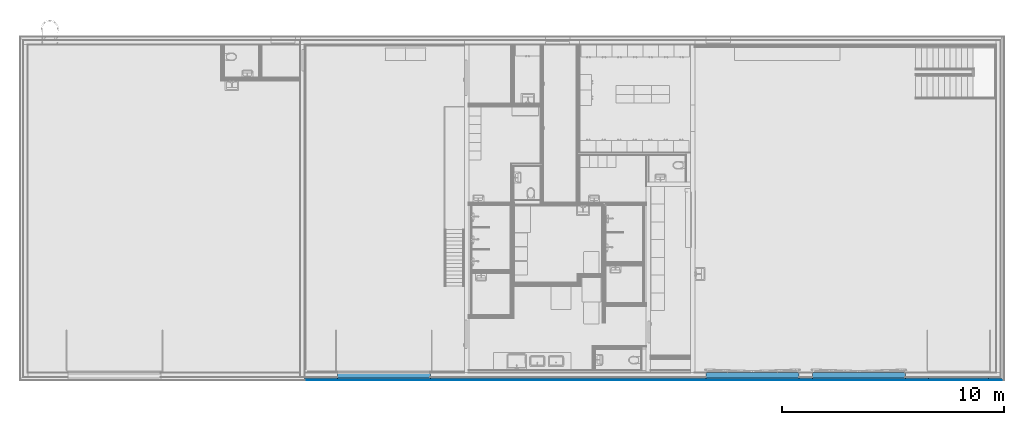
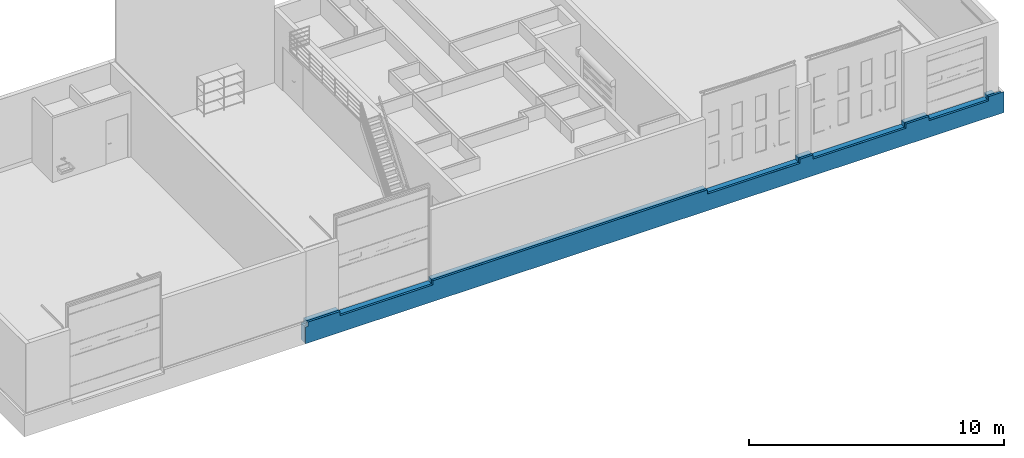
# One storey, part 15 of 67: 3 building element parts, 1 opening, 1 element without a shape of its own.
"""IFC4 building model written with IfcOpenShell, lengths in millimetres."""

from ifc_helpers import new_model, entity, si_unit, converted_unit, direction, frame, origin, place, context, subcontext, project, spatial, indexed_curve, outline, extrude, polygons, material, type_object, element, aggregate, save


model = new_model("IFC4")

# Units and contexts
model_context = context("Model", 3, precision=0.01, world=origin(), true_north=direction((0.0, 1.0)))
body_context = subcontext(model_context, "Body", "Model", "MODEL_VIEW")
ifc_project = project(units=[si_unit("LENGTHUNIT", "METRE", prefix="MILLI"), si_unit("AREAUNIT", "SQUARE_METRE"), si_unit("VOLUMEUNIT", "CUBIC_METRE"), converted_unit("PLANEANGLEUNIT", "DEGREE", entity("IfcPlaneAngleMeasure", 0.017453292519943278), si_unit("PLANEANGLEUNIT", "RADIAN"), dimensions=[0, 0, 0, 0, 0, 0, 0])], contexts=[model_context])

# Site, building, storey
site_placement = place(None, origin())
site = spatial("IfcSite", under=ifc_project, at=site_placement, Name="Tomtens navn", CompositionType="ELEMENT")
building_placement = place(site_placement, origin())
building = spatial("IfcBuilding", under=site, at=building_placement, Name="Byggets navn", CompositionType="ELEMENT")
storey_placement = place(building_placement, origin())
storey = spatial("IfcBuildingStorey", under=building, at=storey_placement, Name="Level 01", CompositionType="ELEMENT", Elevation=2.1993652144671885e-25)

# Wall, opening, building element parts
wall_type = type_object("IfcWallType", Name="Basic Wall:RIB YV-Betong_250mm+100iso", PredefinedType="STANDARD")
wall_placement = place(storey_placement, frame((82422.85352810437, 7885.466456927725, -800.0), z_axis=(0.0, 0.0, 1.0), x_axis=(-1.0, 0.0, 0.0)))
wall = element("IfcWall", 1, at=wall_placement, inside=storey, type_object=wall_type, Name="Basic Wall:RIB YV-Betong_250mm+100iso", PredefinedType="NOTDEFINED")
opening_placement = place(wall_placement, frame((29740.0, 176.0, 800.0)))
element("IfcOpeningElement", 2, at=opening_placement, cuts=wall, Name="Garage Door_9:4200 x 4500:1", PredefinedType="OPENING", context=body_context, shape_type="SweptSolid", body=[
    extrude(outline(indexed_curve([(0.0, -5.414335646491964e-13), (4499.999999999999, -5.414335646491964e-13), (4499.999999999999, 4199.999999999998), (0.0, 4199.999999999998), (0.0, -5.414335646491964e-13)], self_intersect=False)), frame((0.0, 0.0, 0.0), z_axis=(0.0, -1.0, 0.0), x_axis=(0.0, 0.0, 1.0)), (0.0, 0.0, 1.0), 352.00000000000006),
])
ifc_material_1 = material(Name="NO_Maling - mørk grå", Category="Overflatebehandling")
building_element_part_1_placement = place(wall_placement, frame((31310.0, 176.0, 0.0)))
building_element_part_1 = element("IfcBuildingElementPart", 3, at=building_element_part_1_placement, material=ifc_material_1, Name="NO_Maling - mørk grå", context=body_context, shape_type="Tessellation", body=[
    polygons([(-30959.99999999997, -1.9999999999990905, 800.0), (-28259.99999999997, -1.9999999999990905, 800.0), (-28259.99999999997, 9.094947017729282e-13, 800.0), (-30959.99999999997, 9.094947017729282e-13, 800.0), (-31659.99999999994, 9.094947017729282e-13, 0.0), (1.3501923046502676e-11, 1.8189894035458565e-12, 0.0), (1.3501650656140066e-11, -1.999999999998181, 0.0), (-31659.99999999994, -1.9999999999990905, 0.0), (1.3501923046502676e-11, 1.8189894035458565e-12, 800.0), (1.3501650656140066e-11, -1.999999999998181, 800.0), (-99.99999999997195, -1.999999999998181, 800.0), (-99.99999999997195, -1.999999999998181, 1000.0000000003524), (-1569.9999999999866, -1.999999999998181, 1000.0000000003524), (-1569.9999999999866, -1.999999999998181, 800.0), (-5769.999999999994, -1.9999999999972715, 800.0), (-5769.999999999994, -1.9999999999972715, 1000.0000000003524), (-18209.999999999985, -1.999999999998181, 1000.0000000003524), (-18209.999999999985, -1.999999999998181, 800.0), (-22409.999999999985, -1.999999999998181, 800.0), (-22409.999999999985, -1.999999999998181, 1000.0000000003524), (-23010.0, -1.999999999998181, 1000.0000000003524), (-23010.0, -1.999999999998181, 800.0), (-27210.0, -1.9999999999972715, 800.0), (-27210.0, -1.9999999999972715, 1000.0000000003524), (-28259.99999999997, -1.9999999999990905, 1000.0000000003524), (-30959.99999999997, -1.9999999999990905, 1000.0000000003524), (-31659.99999999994, -1.9999999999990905, 1000.0000000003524), (-31659.99999999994, -1.9999999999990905, 800.0), (-31659.99999999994, 0.0, 800.0), (-31659.99999999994, 9.094947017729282e-13, 1000.0000000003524), (-30959.99999999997, 9.094947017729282e-13, 1000.0000000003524), (-28259.99999999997, 9.094947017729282e-13, 1000.0000000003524), (-27210.0, 9.094947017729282e-13, 1000.0000000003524), (-27210.000000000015, 9.094947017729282e-13, 800.0), (-23010.0, 9.094947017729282e-13, 800.0), (-23010.0, 9.094947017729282e-13, 1000.0000000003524), (-22409.999999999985, 9.094947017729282e-13, 1000.0000000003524), (-22409.999999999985, 9.094947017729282e-13, 800.0), (-18209.999999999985, 0.0, 800.0), (-18209.999999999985, 0.0, 1000.0000000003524), (-5769.999999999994, 0.0, 1000.0000000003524), (-5769.999999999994, 2.7284841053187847e-12, 800.0), (-1569.9999999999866, 1.8189894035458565e-12, 800.0), (-1569.9999999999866, 1.8189894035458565e-12, 1000.0000000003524), (-99.9999999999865, 1.8189894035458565e-12, 1000.0000000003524), (-99.99999999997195, 1.8189894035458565e-12, 800.0)], [[[1, 2, 3, 4]], [[5, 6, 7, 8]], [[7, 6, 9, 10]], [[8, 7, 10, 11, 12, 13, 14, 15, 16, 17, 18, 19, 20, 21, 22, 23, 24, 25, 2, 1, 26, 27, 28]], [[6, 5, 29, 30, 31, 4, 3, 32, 33, 34, 35, 36, 37, 38, 39, 40, 41, 42, 43, 44, 45, 46, 9]], [[29, 5, 8, 28, 27, 30]], [[31, 30, 27, 26]], [[4, 31, 26, 1]], [[32, 3, 2, 25]], [[33, 32, 25, 24]], [[34, 33, 24, 23]], [[36, 35, 22, 21]], [[37, 36, 21, 20]], [[38, 37, 20, 19]], [[40, 39, 18, 17]], [[41, 40, 17, 16]], [[42, 41, 16, 15]], [[44, 43, 14, 13]], [[45, 44, 13, 12]], [[46, 45, 12, 11]], [[23, 22, 35, 34]], [[19, 18, 39, 38]], [[15, 14, 43, 42]], [[10, 9, 46, 11]]], closed=True),
])
ifc_material_2 = material(Name="NO_Isolasjon - Fast", Category="Isolasjon")
building_element_part_2_placement = place(wall_placement, frame((31310.0, 174.0, 0.0)))
building_element_part_2 = element("IfcBuildingElementPart", 4, at=building_element_part_2_placement, material=ifc_material_2, Name="NO_Isolasjon - Fast", context=body_context, shape_type="Tessellation", body=[
    polygons([(-28259.99999999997, 9.094947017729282e-13, 800.0), (-30959.99999999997, 9.094947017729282e-13, 800.0), (-30959.99999999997, -99.99999999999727, 800.0), (-28259.99999999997, -99.99999999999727, 800.0), (-31559.999999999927, 9.094947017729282e-13, 0.0), (1.3501650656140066e-11, 1.8189894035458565e-12, 0.0), (1.3488031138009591e-11, -99.99999999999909, 0.0), (-31559.999999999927, -99.99999999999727, 0.0), (1.3501650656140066e-11, 1.8189894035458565e-12, 800.0), (1.3488031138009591e-11, -99.99999999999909, 800.0), (-31559.999999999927, 9.094947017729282e-13, 800.0), (-31559.999999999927, 9.094947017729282e-13, 1000.0000000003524), (-30959.99999999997, 9.094947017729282e-13, 1000.0000000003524), (-28259.99999999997, 9.094947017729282e-13, 1000.0000000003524), (-27210.0, 2.7284841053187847e-12, 1000.0000000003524), (-27210.0, 2.7284841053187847e-12, 800.0), (-23010.0, 1.8189894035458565e-12, 800.0), (-23010.0, 1.8189894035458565e-12, 1000.0000000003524), (-22409.999999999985, 1.8189894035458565e-12, 1000.0000000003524), (-22409.999999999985, 1.8189894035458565e-12, 800.0), (-18209.999999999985, 1.8189894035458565e-12, 800.0), (-18209.999999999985, 1.8189894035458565e-12, 1000.0000000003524), (-5769.999999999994, 2.7284841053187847e-12, 1000.0000000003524), (-5769.999999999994, 2.7284841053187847e-12, 800.0), (-1569.9999999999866, 1.8189894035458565e-12, 800.0), (-1569.9999999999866, 1.8189894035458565e-12, 1000.0000000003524), (-99.99999999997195, 1.8189894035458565e-12, 1000.0000000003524), (-99.99999999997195, 1.8189894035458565e-12, 800.0), (-99.99999999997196, -99.99999999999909, 800.0), (-99.99999999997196, -99.99999999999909, 1000.0000000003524), (-1569.9999999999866, -99.99999999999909, 1000.0000000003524), (-1569.9999999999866, -99.99999999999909, 800.0), (-5769.999999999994, -99.99999999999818, 800.0), (-5769.999999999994, -99.99999999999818, 1000.0000000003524), (-18209.999999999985, -99.99999999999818, 1000.0000000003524), (-18209.999999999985, -99.99999999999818, 800.0), (-22409.999999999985, -99.99999999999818, 800.0), (-22410.0, -99.99999999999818, 1000.0000000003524), (-23010.0, -99.99999999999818, 1000.0000000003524), (-23010.0, -99.99999999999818, 800.0), (-27210.0, -99.99999999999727, 800.0), (-27210.0, -99.99999999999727, 1000.0000000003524), (-28259.99999999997, -99.99999999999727, 1000.0000000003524), (-30959.99999999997, -99.99999999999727, 1000.0000000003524), (-31559.999999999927, -99.99999999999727, 1000.0000000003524), (-31559.999999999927, -99.99999999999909, 800.0)], [[[1, 2, 3, 4]], [[5, 6, 7, 8]], [[7, 6, 9, 10]], [[6, 5, 11, 12, 13, 2, 1, 14, 15, 16, 17, 18, 19, 20, 21, 22, 23, 24, 25, 26, 27, 28, 9]], [[8, 7, 10, 29, 30, 31, 32, 33, 34, 35, 36, 37, 38, 39, 40, 41, 42, 43, 4, 3, 44, 45, 46]], [[5, 8, 46, 45, 12, 11]], [[27, 26, 31, 30]], [[2, 13, 44, 3]], [[14, 1, 4, 43]], [[13, 12, 45, 44]], [[16, 15, 42, 41]], [[18, 17, 40, 39]], [[15, 14, 43, 42]], [[20, 19, 38, 37]], [[35, 22, 21, 36]], [[19, 18, 39, 38]], [[23, 34, 33, 24]], [[26, 25, 32, 31]], [[34, 23, 22, 35]], [[28, 27, 30, 29]], [[17, 16, 41, 40]], [[21, 20, 37, 36]], [[25, 24, 33, 32]], [[10, 9, 28, 29]]], closed=True),
])
ifc_material_3 = material(Name="231_Vegg 250mm_Betong", Category="NOR ^ Betong")
building_element_part_3_placement = place(wall_placement, frame((31310.0, 74.0, 0.0)))
building_element_part_3 = element("IfcBuildingElementPart", 5, at=building_element_part_3_placement, material=ifc_material_3, Name="231_Vegg 250mm_Betong", context=body_context, shape_type="Tessellation", body=[
    polygons([(-28259.999999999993, 1.8189894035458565e-12, 800.0), (-30959.999999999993, 1.8189894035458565e-12, 800.0), (-30959.999999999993, -250.0, 800.0), (-28259.999999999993, -250.0, 800.0), (-8.339841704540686e-12, 0.0, 0.0), (-31309.99999999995, 1.8189894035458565e-12, 0.0), (-31309.99999999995, 0.0, 800.0), (-31309.99999999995, 1.8189894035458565e-12, 1000.0000000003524), (-30959.999999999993, 1.8189894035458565e-12, 1000.0000000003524), (-28259.999999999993, 1.8189894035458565e-12, 1000.0000000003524), (-27210.000000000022, 1.8189894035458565e-12, 1000.0000000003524), (-27210.000000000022, 1.8189894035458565e-12, 800.0), (-23010.000000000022, 9.094947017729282e-13, 800.0), (-23010.000000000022, 9.094947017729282e-13, 1000.0000000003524), (-22410.000000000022, 9.094947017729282e-13, 1000.0000000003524), (-22410.000000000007, 9.094947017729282e-13, 800.0), (-18210.000000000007, 9.094947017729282e-13, 800.0), (-18210.000000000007, 9.094947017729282e-13, 1000.0000000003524), (-5770.0000000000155, 9.094947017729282e-13, 1000.0000000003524), (-5770.0000000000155, 9.094947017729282e-13, 800.0), (-1570.0000000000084, 0.0, 800.0), (-1570.0000000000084, 0.0, 1000.0000000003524), (-99.99999999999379, 0.0, 1000.0000000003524), (-99.99999999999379, 0.0, 800.0), (-8.339841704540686e-12, 0.0, 800.0), (-8.373890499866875e-12, -250.0000000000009, 0.0), (-31309.99999999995, -250.0000000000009, 0.0), (-31309.99999999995, -250.0, 800.0), (-31309.99999999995, -250.0000000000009, 1000.0000000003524), (-8.373890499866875e-12, -250.0000000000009, 800.0), (-100.00000000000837, -250.0000000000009, 800.0), (-100.00000000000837, -250.0000000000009, 1000.0000000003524), (-1570.0000000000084, -250.0000000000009, 1000.0000000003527), (-1570.0000000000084, -250.0000000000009, 800.0), (-5770.0000000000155, -250.0, 800.0), (-5770.0000000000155, -250.0, 1000.0000000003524), (-18210.000000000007, -250.00000000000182, 1000.0000000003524), (-18210.000000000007, -250.00000000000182, 800.0), (-22410.000000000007, -250.0000000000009, 800.0), (-22410.000000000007, -250.0000000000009, 1000.0000000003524), (-23010.000000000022, -250.0000000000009, 1000.0000000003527), (-23010.000000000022, -250.0000000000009, 800.0), (-27210.000000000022, -250.0, 800.0), (-27210.000000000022, -250.0, 1000.0000000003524), (-28259.999999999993, -250.0, 1000.0000000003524), (-30959.999999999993, -250.0, 1000.0000000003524)], [[[1, 2, 3, 4]], [[5, 6, 7, 8, 9, 2, 1, 10, 11, 12, 13, 14, 15, 16, 17, 18, 19, 20, 21, 22, 23, 24, 25]], [[6, 5, 26, 27]], [[7, 6, 27, 28, 29, 8]], [[5, 25, 30, 26]], [[27, 26, 30, 31, 32, 33, 34, 35, 36, 37, 38, 39, 40, 41, 42, 43, 44, 45, 4, 3, 46, 29, 28]], [[9, 8, 29, 46]], [[2, 9, 46, 3]], [[10, 1, 4, 45]], [[11, 10, 45, 44]], [[12, 11, 44, 43]], [[14, 13, 42, 41]], [[15, 14, 41, 40]], [[16, 15, 40, 39]], [[18, 17, 38, 37]], [[19, 18, 37, 36]], [[20, 19, 36, 35]], [[22, 21, 34, 33]], [[23, 22, 33, 32]], [[24, 23, 32, 31]], [[13, 12, 43, 42]], [[17, 16, 39, 38]], [[21, 20, 35, 34]], [[25, 24, 31, 30]]], closed=True),
])
aggregate(wall, [building_element_part_1, building_element_part_2, building_element_part_3])

save(model, "model.ifc")
